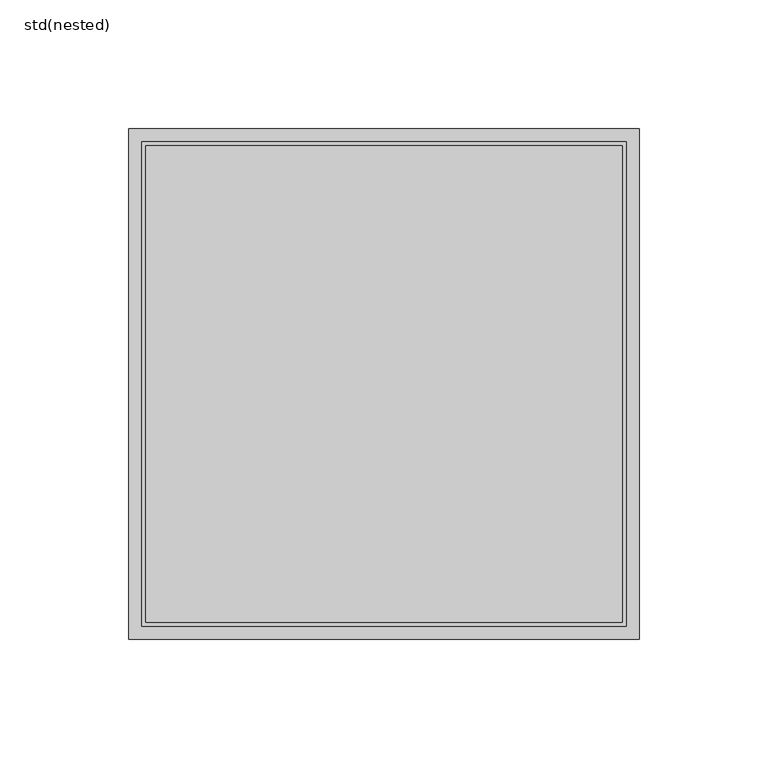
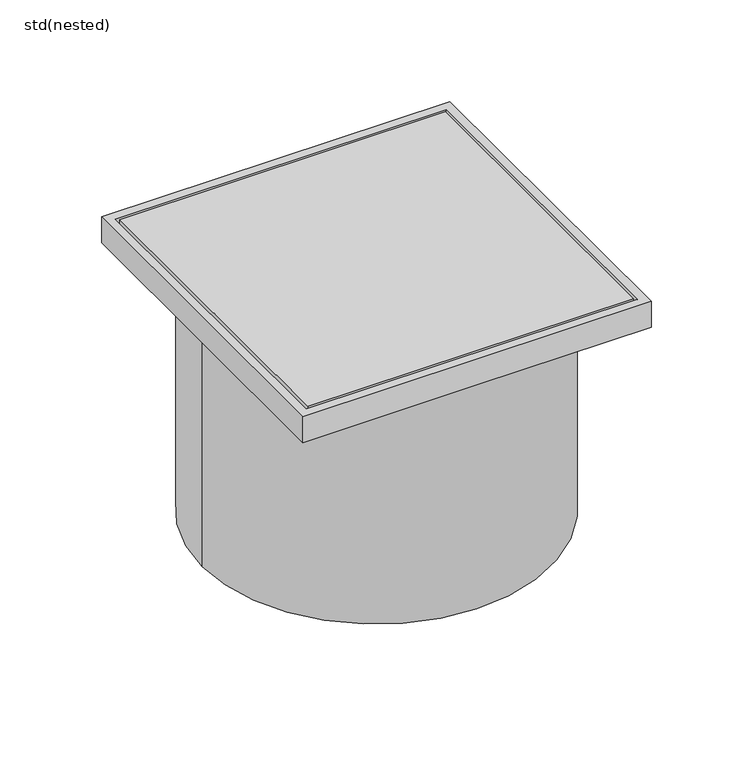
"""IFC4 building model written with IfcOpenShell, lengths in millimetres: sanitary terminal geometry, ZZZ_do not use_PF_PE_WPB_standard slotted grate_CR 218_ACO : std(nested)."""

from ifc_helpers import new_model, si_unit, frame, origin, place, context, project, spatial, polyline, circle_curve, outline, extrude, source, transform, mapped, element, save
from ifc_brep_helpers import plane_surface, cylinder_surface, advanced_brep


def std_nested_8932cf48(model_context):
    return source(origin(), model_context, "Body", "SolidModel", [
        extrude(outline(polyline([(92.5, 92.5), (92.5, -92.5), (-92.5, -92.5), (-92.5, 92.5), (92.5, 92.5)])), frame((0.0, 0.0, -11.5), z_axis=(0.0, 0.0, 1.0), x_axis=(1.0, 0.0, 0.0)), (0.0, 0.0, 1.0), 11.5),
        advanced_brep(
        [(99.0, 99.0, -15.5), (99.0, 99.0, 0.0), (99.0, -99.0, 0.0), (99.0, -99.0, -15.5), (99.0, 0.0, -15.5), (94.0, 94.0, 0.0), (94.0, 94.0, -11.5), (94.0, -94.0, -11.5), (94.0, -94.0, 0.0), (-99.0, -99.0, 0.0), (-99.0, -99.0, -15.5), (0.0, -99.0, -15.5), (-94.0, -94.0, -11.5), (-94.0, -94.0, 0.0), (-99.0, 99.0, 0.0), (-99.0, 99.0, -15.5), (-99.0, 0.0, -15.5), (-94.0, 94.0, -11.5), (-94.0, 94.0, 0.0), (0.0, 99.0, -15.5), (-99.0, 0.0, -150.0), (99.0, 0.0, -150.0)],
        [
            (0, 1),
            (1, 2),
            (2, 3),
            (3, 4),
            (4, 0),
            (5, 6),
            (6, 7),
            (7, 8),
            (8, 5),
            (2, 9),
            (9, 10),
            (10, 11),
            (11, 3),
            (7, 12),
            (12, 13),
            (13, 8),
            (9, 14),
            (14, 15),
            (15, 16),
            (16, 10),
            (12, 17),
            (17, 18),
            (18, 13),
            (1, 14),
            (18, 5),
            (0, 19),
            (19, 15),
            (17, 6),
            (16, 11, circle_curve(frame((0.0, 0.0, -15.5), z_axis=(0.0, 0.0, 1.0), x_axis=(1.0, 0.0, 0.0)), 99.0)),
            (11, 4, circle_curve(frame((0.0, 0.0, -15.5), z_axis=(0.0, 0.0, 1.0), x_axis=(1.0, 0.0, 0.0)), 99.0)),
            (19, 16, circle_curve(frame((0.0, 0.0, -15.5), z_axis=(0.0, 0.0, 1.0), x_axis=(1.0, 0.0, 0.0)), 99.0)),
            (4, 19, circle_curve(frame((0.0, 0.0, -15.5), z_axis=(0.0, 0.0, 1.0), x_axis=(1.0, 0.0, 0.0)), 99.0)),
            (20, 21, circle_curve(frame((0.0, 0.0, -150.0), z_axis=(0.0, 0.0, -1.0), x_axis=(1.0, 0.0, 0.0)), 99.0)),
            (21, 20, circle_curve(frame((0.0, 0.0, -150.0), z_axis=(0.0, 0.0, -1.0), x_axis=(1.0, 0.0, 0.0)), 99.0)),
            (21, 4),
            (16, 20),
        ],
        [
            plane_surface(frame((99.0, 99.0, 0.0), z_axis=(1.0, 0.0, 0.0), x_axis=(0.0, -1.0, 0.0))),
            plane_surface(frame((94.0, 94.0, -11.5), z_axis=(-1.0, 0.0, 0.0), x_axis=(0.0, -1.0, 0.0))),
            plane_surface(frame((99.0, -99.0, 0.0), z_axis=(0.0, -1.0, 0.0), x_axis=(-1.0, 0.0, 0.0))),
            plane_surface(frame((94.0, -94.0, -11.5), z_axis=(0.0, 1.0, 0.0), x_axis=(-1.0, 0.0, 0.0))),
            plane_surface(frame((-99.0, -99.0, 0.0), z_axis=(-1.0, 0.0, 0.0), x_axis=(0.0, 1.0, 0.0))),
            plane_surface(frame((-94.0, -94.0, -11.5), z_axis=(1.0, 0.0, 0.0), x_axis=(0.0, 1.0, 0.0))),
            plane_surface(frame((-94.0, 94.0, 0.0), z_axis=(0.0, 0.0, 1.0), x_axis=(1.0, 0.0, 0.0))),
            plane_surface(frame((-99.0, 99.0, 0.0), z_axis=(0.0, 1.0, 0.0), x_axis=(1.0, 0.0, 0.0))),
            plane_surface(frame((-94.0, 94.0, -11.5), z_axis=(0.0, -1.0, 0.0), x_axis=(1.0, 0.0, 0.0))),
            plane_surface(frame((-94.0, 94.0, -15.5), z_axis=(0.0, 0.0, -1.0), x_axis=(1.0, 0.0, 0.0))),
            plane_surface(frame((0.0, 0.0, -11.5), z_axis=(0.0, 0.0, 1.0), x_axis=(1.0, 0.0, 0.0))),
            plane_surface(frame((99.0, 0.0, -150.0), z_axis=(0.0, 0.0, -1.0), x_axis=(0.0, -1.0, 0.0))),
            cylinder_surface(frame((0.0, 0.0, -150.0), z_axis=(0.0, 0.0, 1.0), x_axis=(1.0, 0.0, 0.0)), 99.0),
        ],
        [
            (0, [[1, 2, 3, 4, 5]]),
            (1, [[6, 7, 8, 9]]),
            (2, [[-3, 10, 11, 12, 13]]),
            (3, [[-8, 14, 15, 16]]),
            (4, [[-11, 17, 18, 19, 20]]),
            (5, [[-15, 21, 22, 23]]),
            (6, [[-2, 24, -17, -10], [-9, -16, -23, 25]]),
            (7, [[-1, 26, 27, -18, -24]]),
            (8, [[-6, -25, -22, 28]]),
            (9, [[-12, -20, 29]]),
            (9, [[-13, 30, -4]]),
            (9, [[-19, -27, 31]]),
            (9, [[-26, -5, 32]]),
            (10, [[-7, -28, -21, -14]]),
            (11, [[33, 34]]),
            (12, [[-34, 35, -30, -29, 36]]),
            (12, [[-33, -36, -31, -32, -35]]),
        ],
    ),
    ])


if __name__ == "__main__":
    model = new_model("IFC4")
    model_context = context("Model", 3, world=origin())
    ifc_project = project(units=[si_unit("LENGTHUNIT", "METRE", prefix="MILLI")], contexts=[model_context])
    site = spatial("IfcSite", under=ifc_project)
    building = spatial("IfcBuilding", under=site)
    placement = place(None, origin())
    std_nested_shape = std_nested_8932cf48(model_context)
    element("IfcSanitaryTerminal", 1, ObjectType="ZZZ_do not use_PF_PE_WPB_standard slotted grate_CR 218_ACO : std(nested)", at=placement, inside=building, context=model_context, shape_type="MappedRepresentation", body=[
        mapped(std_nested_shape, transform((0.0, 0.0, 0.0), x_axis=(1.0, 0.0, 0.0), y_axis=(0.0, 1.0, 0.0), z_axis=(0.0, 0.0, 1.0))),
    ])
    save(model, "model.ifc")
